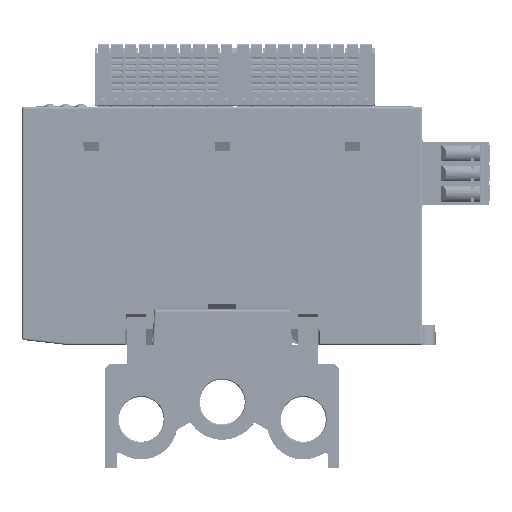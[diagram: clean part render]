
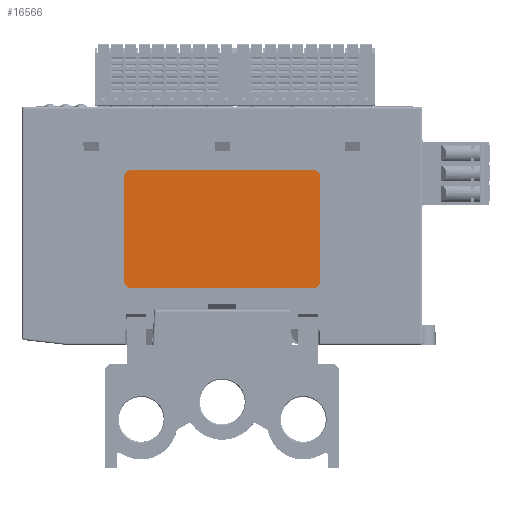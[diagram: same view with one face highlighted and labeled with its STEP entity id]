
A CAD part, front view. The second image highlights one B-rep face of the part: STEP entity #16566.
In plain terms, the highlighted planar face has unit normal (0, -1, 0).
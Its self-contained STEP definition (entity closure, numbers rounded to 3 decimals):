
#7152=FACE_OUTER_BOUND('',#71325,.T.);
#16566=ADVANCED_FACE('',(#7152),#26107,.F.);
#26107=PLANE('',#180747);
#33769=LINE('',#253453,#51783);
#33773=LINE('',#253461,#51787);
#33775=LINE('',#253465,#51789);
#33778=LINE('',#253473,#51792);
#51783=VECTOR('',#198842,1.);
#51787=VECTOR('',#198848,1.);
#51789=VECTOR('',#198852,1.);
#51792=VECTOR('',#198859,1.);
#71325=EDGE_LOOP('',(#85106,#85107,#85108,#85109,#85110,#85111,#85112,#85113));
#85106=ORIENTED_EDGE('',*,*,#151661,.F.);
#85107=ORIENTED_EDGE('',*,*,#151666,.T.);
#85108=ORIENTED_EDGE('',*,*,#151667,.F.);
#85109=ORIENTED_EDGE('',*,*,#151668,.T.);
#85110=ORIENTED_EDGE('',*,*,#151663,.F.);
#85111=ORIENTED_EDGE('',*,*,#151669,.T.);
#85112=ORIENTED_EDGE('',*,*,#151657,.F.);
#85113=ORIENTED_EDGE('',*,*,#151670,.T.);
#134430=VERTEX_POINT('',#253454);
#134431=VERTEX_POINT('',#253455);
#134432=VERTEX_POINT('',#253460);
#134433=VERTEX_POINT('',#253462);
#134434=VERTEX_POINT('',#253466);
#134435=VERTEX_POINT('',#253467);
#134436=VERTEX_POINT('',#253472);
#134437=VERTEX_POINT('',#253474);
#151657=EDGE_CURVE('',#134430,#134431,#33769,.T.);
#151661=EDGE_CURVE('',#134432,#134433,#33773,.T.);
#151663=EDGE_CURVE('',#134434,#134435,#33775,.T.);
#151666=EDGE_CURVE('',#134432,#134436,#175163,.T.);
#151667=EDGE_CURVE('',#134437,#134436,#33778,.T.);
#151668=EDGE_CURVE('',#134437,#134435,#175164,.T.);
#151669=EDGE_CURVE('',#134434,#134431,#175165,.T.);
#151670=EDGE_CURVE('',#134430,#134433,#175166,.T.);
#175163=CIRCLE('',#180743,1.8);
#175164=CIRCLE('',#180744,1.8);
#175165=CIRCLE('',#180745,1.8);
#175166=CIRCLE('',#180746,1.8);
#180743=AXIS2_PLACEMENT_3D('',#253471,#198857,#198858);
#180744=AXIS2_PLACEMENT_3D('',#253475,#198860,#198861);
#180745=AXIS2_PLACEMENT_3D('',#253476,#198862,#198863);
#180746=AXIS2_PLACEMENT_3D('',#253477,#198864,#198865);
#180747=AXIS2_PLACEMENT_3D('',#253478,#198866,#198867);
#198842=DIRECTION('',(0.,0.,-1.));
#198848=DIRECTION('',(1.,0.,0.));
#198852=DIRECTION('',(-1.,0.,0.));
#198857=DIRECTION('',(0.,-1.,0.));
#198858=DIRECTION('',(0.,0.,1.));
#198859=DIRECTION('',(0.,0.,1.));
#198860=DIRECTION('',(0.,-1.,0.));
#198861=DIRECTION('',(0.,0.,-1.));
#198862=DIRECTION('',(0.,-1.,0.));
#198863=DIRECTION('',(0.,0.,-1.));
#198864=DIRECTION('',(0.,-1.,0.));
#198865=DIRECTION('',(0.,0.,-1.));
#198866=DIRECTION('',(0.,1.,0.));
#198867=DIRECTION('',(0.,0.,-1.));
#253453=CARTESIAN_POINT('',(525.15,1597.36,34.634));
#253454=CARTESIAN_POINT('',(525.15,1597.36,47.934));
#253455=CARTESIAN_POINT('',(525.15,1597.36,21.334));
#253460=CARTESIAN_POINT('',(476.75,1597.36,49.734));
#253461=CARTESIAN_POINT('',(500.05,1597.36,49.734));
#253462=CARTESIAN_POINT('',(523.35,1597.36,49.734));
#253465=CARTESIAN_POINT('',(475.05,1597.36,19.534));
#253466=CARTESIAN_POINT('',(523.35,1597.36,19.534));
#253467=CARTESIAN_POINT('',(476.75,1597.36,19.534));
#253471=CARTESIAN_POINT('',(476.75,1597.36,47.934));
#253472=CARTESIAN_POINT('',(474.95,1597.36,47.934));
#253473=CARTESIAN_POINT('',(474.95,1597.36,34.634));
#253474=CARTESIAN_POINT('',(474.95,1597.36,21.334));
#253475=CARTESIAN_POINT('',(476.75,1597.36,21.334));
#253476=CARTESIAN_POINT('',(523.35,1597.36,21.334));
#253477=CARTESIAN_POINT('',(523.35,1597.36,47.934));
#253478=CARTESIAN_POINT('',(500.041,1597.36,23.341));
